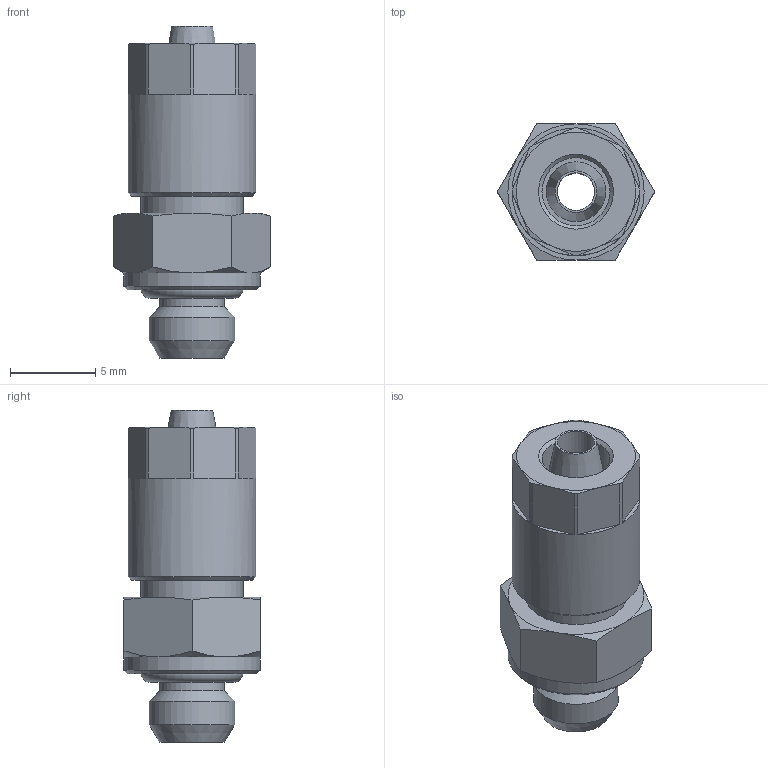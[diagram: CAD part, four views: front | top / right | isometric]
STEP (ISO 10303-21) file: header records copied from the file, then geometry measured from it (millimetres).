
FILE_DESCRIPTION(/* description */ (''),/* implementation_level */ '2;1');
FILE_NAME(/* name */ '10202_301Z_42_M5_26.08.15',/* time_stamp */ '2015-08-26T11:25:15+02:00',/* author */ (''),/* organization */ (''),/* preprocessor_version */ 'ST-DEVELOPER v14',/* originating_system */ 'HiCAD 2013 1802.4 Build 509',/* authorisation */ '');
FILE_SCHEMA (('AUTOMOTIVE_DESIGN { 1 0 10303 214 1 1 1 1 }'));
Length unit declared in the file: millimetre
Products named in the file (4): Root; OR 4X1.2; 17001; R10202
Assembly tree (3 placements, depth 2):
  Root
    OR 4X1.2
    17001
    R10202
Bounding box: 9.24 x 8 x 19.5 mm (x, y, z)
Volume: 624.6 mm3; surface area: 1019.7 mm2
Topology: 3 solids, 3 shells, 74 faces, 167 edges, 102 vertices
Faces by surface type: cone 31, plane 31, cylinder 9, torus 3
Full cylindrical faces by diameter (mm): 2.2 x1, 3.1 x1, 3.8 x1, 4 x1, 5 x1, 5.387 x1, 6 x1, 7.5 x1, 8 x1
Entity records: 3338 total; most frequent: DIRECTION 400, CARTESIAN_POINT 308, PRESENTATION_STYLE_ASSIGNMENT 273, COLOUR_RGB 273, DRAUGHTING_PRE_DEFINED_CURVE_FONT 270, CURVE_STYLE 270, OVER_RIDING_STYLED_ITEM 270, ORIENTED_EDGE 270
